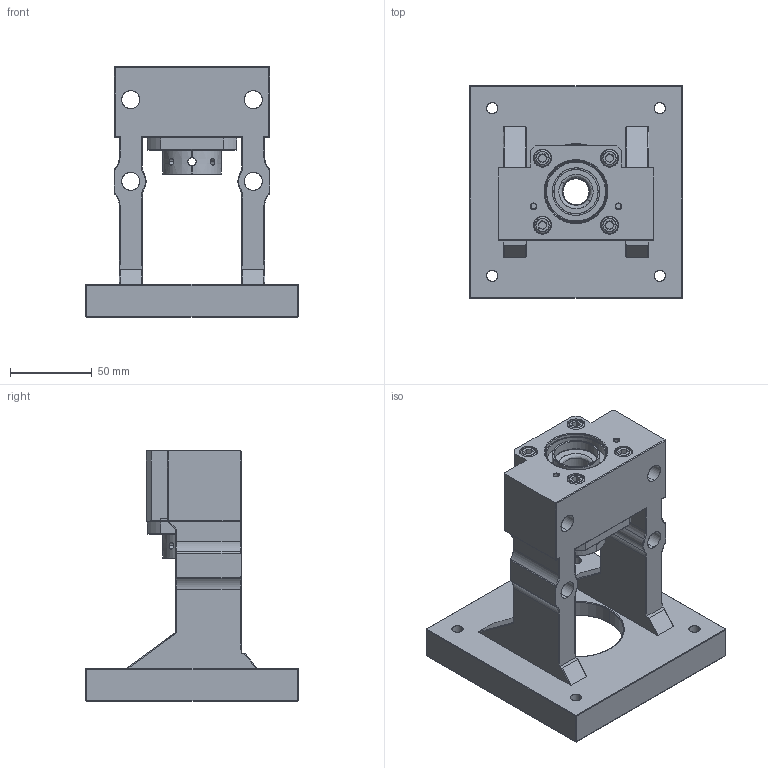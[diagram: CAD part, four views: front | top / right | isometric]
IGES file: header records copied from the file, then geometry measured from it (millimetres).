
Start section: SolidWorks IGES file using analytic representation for surfaces
Global section: file name: C:\Users\117\Desktop\1061208網站3D圖檔問題處理\傳動座\整合型\MBCS(F)\MBCS17\MBCS17-G.IGS,15HSolidWorks; native system: 2017; preprocessor: SolidWorks 2017; author: 117; date: 171228.155049; units: millimetre
Bounding box: 130 x 130 x 153 mm (x, y, z)
Surface area: 109044.7 mm2 (no closed solid volume)
Topology: 0 solids, 0 shells, 376 faces, 5820 edges, 5802 vertices
Faces by surface type: revolution 232, bspline 144
